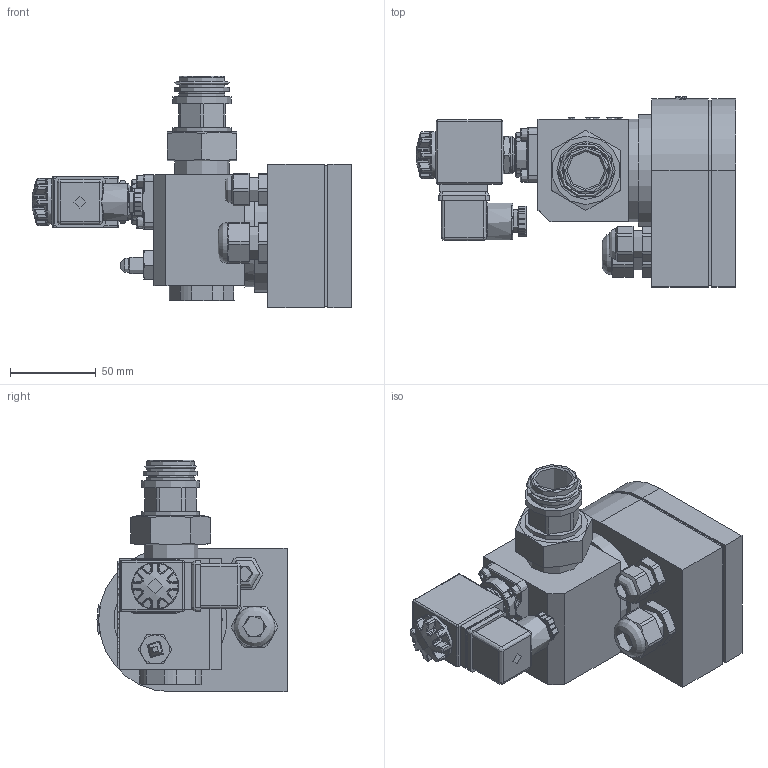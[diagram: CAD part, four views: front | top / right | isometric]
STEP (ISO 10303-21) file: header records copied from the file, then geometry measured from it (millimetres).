
FILE_DESCRIPTION(/* description */ (''),/* implementation_level */ '2;1');
FILE_NAME(/* name */ 'C:\Users\husser\Desktop\ERM6-CDH-OC_Rev.1_AG-Kunde.stp',/* time_stamp */ '2024-08-01T08:13:38+02:00',/* author */ ('Husser'),/* organization */ (''),/* preprocessor_version */ 'ST-DEVELOPER v18.1',/* originating_system */ 'Autodesk Inventor 2021',/* authorisation */ '');
FILE_SCHEMA (('AUTOMOTIVE_DESIGN { 1 0 10303 214 3 1 1 }'));
Products named in the file (1): ERM6-CDH-OC_Rev.1_AG-Kunde
Bounding box: 186.61 x 111 x 135.3 mm (x, y, z)
Volume: 832131.3 mm3; surface area: 98052.6 mm2
Topology: 3 solids, 24 shells, 2173 faces, 5442 edges, 3464 vertices
Faces by surface type: plane 1037, bspline 607, cylinder 264, torus 128, cone 85, sphere 52
Full cylindrical faces by diameter (mm): 3.5 x2, 4 x5, 4.3 x4, 7 x5, 9.1 x1, 9.4 x3, 10 x2, 10.5 x1, 11.112 x1, 13.2 x1, 13.5 x2, 15.5 x1, 16 x1, 20 x2, 20.5 x2, 21.5 x1, 22 x4, 22.1 x1, 24 x1, 26.6 x1, 27.15 x1, 27.5 x1, 28 x1, 28.2 x1, 28.81 x1, 31.75 x2, 32 x1, 32.15 x1, 34 x2, 34.1 x1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
Entity records: 78371 total; most frequent: CARTESIAN_POINT 29086, ORIENTED_EDGE 10870, DIRECTION 8292, EDGE_CURVE 5435, VERTEX_POINT 3464, LINE 3080, VECTOR 3080, AXIS2_PLACEMENT_3D 2606
